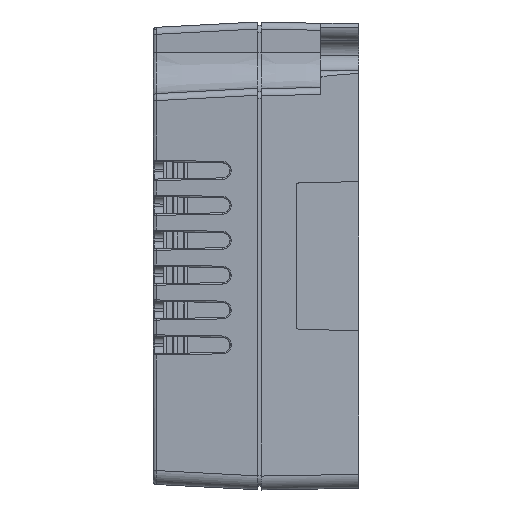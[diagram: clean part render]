
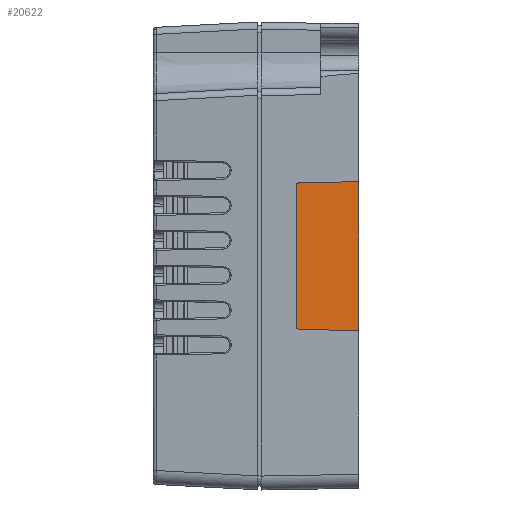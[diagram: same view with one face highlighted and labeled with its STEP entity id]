
A CAD part, left-side view. The second image highlights one B-rep face of the part: STEP entity #20622.
In plain terms, the highlighted planar face has unit normal (-1, -0.018, 0).
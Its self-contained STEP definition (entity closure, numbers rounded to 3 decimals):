
#319 = ORIENTED_EDGE ( 'NONE', *, *, #37918, .F. ) ;
#2992 = EDGE_CURVE ( 'NONE', #45708, #44378, #12642, .T. ) ;
#3207 = CARTESIAN_POINT ( 'NONE',  ( -14.536, 36.485, 66.178 ) ) ;
#3817 = B_SPLINE_CURVE_WITH_KNOTS ( 'NONE', 3,
 ( #23939, #55176, #18711, #60358, #29178, #65596, #34444, #3207 ),
 .UNSPECIFIED., .F., .F.,
 ( 4, 2, 2, 4 ),
 ( 0., 0.5, 0.75, 1. ),
 .UNSPECIFIED. ) ;
#4377 = VERTEX_POINT ( 'NONE', #62541 ) ;
#5595 = VECTOR ( 'NONE', #18595, 1000. ) ;
#7325 = CARTESIAN_POINT ( 'NONE',  ( -14.541, 36.773, 45.252 ) ) ;
#8264 = ORIENTED_EDGE ( 'NONE', *, *, #2992, .F. ) ;
#9365 = VECTOR ( 'NONE', #53403, 1000. ) ;
#10039 = CARTESIAN_POINT ( 'NONE',  ( -14.545, 36.976, 43.497 ) ) ;
#12380 = EDGE_CURVE ( 'NONE', #47628, #4377, #53056, .T. ) ;
#12600 = CARTESIAN_POINT ( 'NONE',  ( -14.544, 36.948, 45.45 ) ) ;
#12642 = LINE ( 'NONE', #22176, #9365 ) ;
#15326 = PLANE ( 'NONE',  #32160 ) ;
#17834 = CARTESIAN_POINT ( 'NONE',  ( -14.545, 36.976, 45.661 ) ) ;
#18595 = DIRECTION ( 'NONE',  ( 0., 0., 1. ) ) ;
#18711 = CARTESIAN_POINT ( 'NONE',  ( -14.544, 36.948, 65.889 ) ) ;
#19257 = CARTESIAN_POINT ( 'NONE',  ( -14.388, 27.976, 66.327 ) ) ;
#19570 = ORIENTED_EDGE ( 'NONE', *, *, #12380, .F. ) ;
#19582 = EDGE_CURVE ( 'NONE', #28801, #45708, #3817, .T. ) ;
#20334 = DIRECTION ( 'NONE',  ( 0., 0., 1. ) ) ;
#20622 = ADVANCED_FACE ( 'NONE', ( #47654 ), #15326, .F. ) ;
#21582 = VECTOR ( 'NONE', #20334, 1000. ) ;
#22176 = CARTESIAN_POINT ( 'NONE',  ( -14.536, 36.485, 66.178 ) ) ;
#22875 = CARTESIAN_POINT ( 'NONE',  ( -14.536, 36.485, 45.161 ) ) ;
#23231 = LINE ( 'NONE', #25590, #21582 ) ;
#23877 = CARTESIAN_POINT ( 'NONE',  ( -14.536, 36.485, 66.178 ) ) ;
#23939 = CARTESIAN_POINT ( 'NONE',  ( -14.545, 36.976, 65.678 ) ) ;
#24305 = CARTESIAN_POINT ( 'NONE',  ( -14.388, 27.976, 45.012 ) ) ;
#25313 = VECTOR ( 'NONE', #63760, 1000. ) ;
#25344 = EDGE_CURVE ( 'NONE', #47628, #44378, #30081, .T. ) ;
#25590 = CARTESIAN_POINT ( 'NONE',  ( -14.545, 36.976, 43.497 ) ) ;
#28801 = VERTEX_POINT ( 'NONE', #54941 ) ;
#29178 = CARTESIAN_POINT ( 'NONE',  ( -14.541, 36.773, 66.087 ) ) ;
#30081 = LINE ( 'NONE', #34781, #5595 ) ;
#30807 = DIRECTION ( 'NONE',  ( 1., 0.017, 0. ) ) ;
#32160 = AXIS2_PLACEMENT_3D ( 'NONE', #10039, #30807, #51773 ) ;
#34444 = CARTESIAN_POINT ( 'NONE',  ( -14.538, 36.567, 66.177 ) ) ;
#34781 = CARTESIAN_POINT ( 'NONE',  ( -14.388, 27.976, 55.669 ) ) ;
#35807 = VERTEX_POINT ( 'NONE', #58070 ) ;
#36002 = ORIENTED_EDGE ( 'NONE', *, *, #50003, .F. ) ;
#36141 = B_SPLINE_CURVE_WITH_KNOTS ( 'NONE', 3,
 ( #22875, #59286, #38597, #7325, #43800, #12600, #49064, #17834 ),
 .UNSPECIFIED., .F., .F.,
 ( 4, 2, 2, 4 ),
 ( 0., 0.25, 0.5, 1. ),
 .UNSPECIFIED. ) ;
#37507 = EDGE_LOOP ( 'NONE', ( #52111, #8264, #43366, #319, #36002, #19570 ) ) ;
#37918 = EDGE_CURVE ( 'NONE', #35807, #28801, #23231, .T. ) ;
#38597 = CARTESIAN_POINT ( 'NONE',  ( -14.539, 36.643, 45.184 ) ) ;
#42822 = CARTESIAN_POINT ( 'NONE',  ( -14.388, 27.976, 45.012 ) ) ;
#43366 = ORIENTED_EDGE ( 'NONE', *, *, #19582, .F. ) ;
#43800 = CARTESIAN_POINT ( 'NONE',  ( -14.542, 36.826, 45.298 ) ) ;
#44378 = VERTEX_POINT ( 'NONE', #19257 ) ;
#45708 = VERTEX_POINT ( 'NONE', #23877 ) ;
#47628 = VERTEX_POINT ( 'NONE', #24305 ) ;
#47654 = FACE_OUTER_BOUND ( 'NONE', #37507, .T. ) ;
#49064 = CARTESIAN_POINT ( 'NONE',  ( -14.545, 36.976, 45.566 ) ) ;
#50003 = EDGE_CURVE ( 'NONE', #4377, #35807, #36141, .T. ) ;
#51773 = DIRECTION ( 'NONE',  ( -0.017, 1., 0. ) ) ;
#52111 = ORIENTED_EDGE ( 'NONE', *, *, #25344, .T. ) ;
#53056 = LINE ( 'NONE', #42822, #25313 ) ;
#53403 = DIRECTION ( 'NONE',  ( 0.017, -1., 0.017 ) ) ;
#54941 = CARTESIAN_POINT ( 'NONE',  ( -14.545, 36.976, 65.678 ) ) ;
#55176 = CARTESIAN_POINT ( 'NONE',  ( -14.545, 36.976, 65.773 ) ) ;
#58070 = CARTESIAN_POINT ( 'NONE',  ( -14.545, 36.976, 45.661 ) ) ;
#59286 = CARTESIAN_POINT ( 'NONE',  ( -14.538, 36.567, 45.162 ) ) ;
#60358 = CARTESIAN_POINT ( 'NONE',  ( -14.542, 36.826, 66.041 ) ) ;
#62541 = CARTESIAN_POINT ( 'NONE',  ( -14.536, 36.485, 45.161 ) ) ;
#63760 = DIRECTION ( 'NONE',  ( -0.017, 1., 0.017 ) ) ;
#65596 = CARTESIAN_POINT ( 'NONE',  ( -14.539, 36.643, 66.155 ) ) ;
